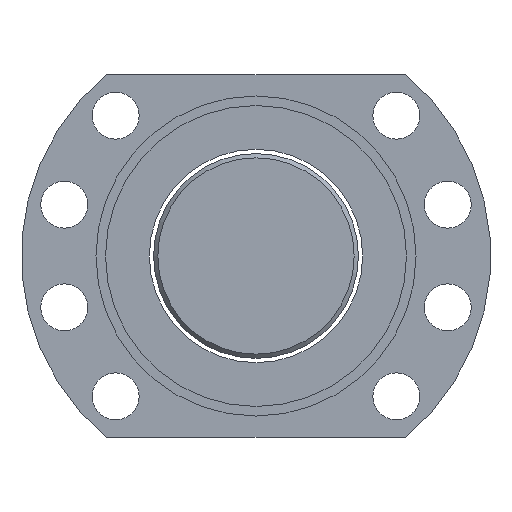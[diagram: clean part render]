
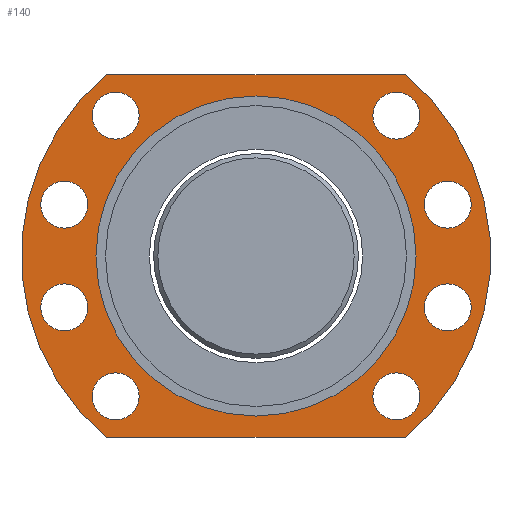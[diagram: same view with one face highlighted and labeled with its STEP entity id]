
A CAD part, left-side view. The second image highlights one B-rep face of the part: STEP entity #140.
In plain terms, the highlighted planar face has unit normal (-1, 0, 0).
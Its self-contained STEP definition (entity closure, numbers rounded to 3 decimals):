
#140=ADVANCED_FACE('',(#239,#240,#241,#242,#243,#244,#245,#246,#247,#248),
#192,.T.);
#192=PLANE('',#793);
#215=LINE('',#1151,#223);
#216=LINE('',#1155,#224);
#223=VECTOR('',#920,1.);
#224=VECTOR('',#923,1.);
#239=FACE_BOUND('',#347,.T.);
#240=FACE_BOUND('',#348,.T.);
#241=FACE_BOUND('',#349,.T.);
#242=FACE_BOUND('',#350,.T.);
#243=FACE_BOUND('',#351,.T.);
#244=FACE_BOUND('',#352,.T.);
#245=FACE_BOUND('',#353,.T.);
#246=FACE_BOUND('',#354,.T.);
#247=FACE_BOUND('',#355,.T.);
#248=FACE_BOUND('',#356,.T.);
#347=EDGE_LOOP('',(#464));
#348=EDGE_LOOP('',(#465));
#349=EDGE_LOOP('',(#466));
#350=EDGE_LOOP('',(#467));
#351=EDGE_LOOP('',(#468));
#352=EDGE_LOOP('',(#469,#470,#471,#472));
#353=EDGE_LOOP('',(#473));
#354=EDGE_LOOP('',(#474));
#355=EDGE_LOOP('',(#475));
#356=EDGE_LOOP('',(#476));
#464=ORIENTED_EDGE('',*,*,#658,.T.);
#465=ORIENTED_EDGE('',*,*,#659,.T.);
#466=ORIENTED_EDGE('',*,*,#660,.F.);
#467=ORIENTED_EDGE('',*,*,#661,.F.);
#468=ORIENTED_EDGE('',*,*,#662,.F.);
#469=ORIENTED_EDGE('',*,*,#663,.T.);
#470=ORIENTED_EDGE('',*,*,#664,.T.);
#471=ORIENTED_EDGE('',*,*,#665,.T.);
#472=ORIENTED_EDGE('',*,*,#666,.T.);
#473=ORIENTED_EDGE('',*,*,#667,.F.);
#474=ORIENTED_EDGE('',*,*,#668,.T.);
#475=ORIENTED_EDGE('',*,*,#669,.F.);
#476=ORIENTED_EDGE('',*,*,#670,.T.);
#596=VERTEX_POINT('',#1139);
#597=VERTEX_POINT('',#1141);
#598=VERTEX_POINT('',#1143);
#599=VERTEX_POINT('',#1145);
#600=VERTEX_POINT('',#1147);
#601=VERTEX_POINT('',#1149);
#602=VERTEX_POINT('',#1150);
#603=VERTEX_POINT('',#1152);
#604=VERTEX_POINT('',#1154);
#605=VERTEX_POINT('',#1157);
#606=VERTEX_POINT('',#1159);
#607=VERTEX_POINT('',#1161);
#608=VERTEX_POINT('',#1163);
#658=EDGE_CURVE('',#596,#596,#722,.T.);
#659=EDGE_CURVE('',#597,#597,#723,.T.);
#660=EDGE_CURVE('',#598,#598,#724,.T.);
#661=EDGE_CURVE('',#599,#599,#725,.T.);
#662=EDGE_CURVE('',#600,#600,#726,.T.);
#663=EDGE_CURVE('',#601,#602,#727,.T.);
#664=EDGE_CURVE('',#602,#603,#215,.T.);
#665=EDGE_CURVE('',#603,#604,#728,.T.);
#666=EDGE_CURVE('',#604,#601,#216,.T.);
#667=EDGE_CURVE('',#605,#605,#729,.T.);
#668=EDGE_CURVE('',#606,#606,#730,.T.);
#669=EDGE_CURVE('',#607,#607,#731,.T.);
#670=EDGE_CURVE('',#608,#608,#732,.T.);
#722=CIRCLE('',#782,5.5);
#723=CIRCLE('',#783,5.5);
#724=CIRCLE('',#784,5.5);
#725=CIRCLE('',#785,5.5);
#726=CIRCLE('',#786,5.5);
#727=CIRCLE('',#787,55.);
#728=CIRCLE('',#788,55.);
#729=CIRCLE('',#789,37.5);
#730=CIRCLE('',#790,5.5);
#731=CIRCLE('',#791,5.5);
#732=CIRCLE('',#792,5.5);
#782=AXIS2_PLACEMENT_3D('',#1138,#908,#909);
#783=AXIS2_PLACEMENT_3D('',#1140,#910,#911);
#784=AXIS2_PLACEMENT_3D('',#1142,#912,#913);
#785=AXIS2_PLACEMENT_3D('',#1144,#914,#915);
#786=AXIS2_PLACEMENT_3D('',#1146,#916,#917);
#787=AXIS2_PLACEMENT_3D('',#1148,#918,#919);
#788=AXIS2_PLACEMENT_3D('',#1153,#921,#922);
#789=AXIS2_PLACEMENT_3D('',#1156,#924,#925);
#790=AXIS2_PLACEMENT_3D('',#1158,#926,#927);
#791=AXIS2_PLACEMENT_3D('',#1160,#928,#929);
#792=AXIS2_PLACEMENT_3D('',#1162,#930,#931);
#793=AXIS2_PLACEMENT_3D('',#1164,#932,#933);
#908=DIRECTION('',(1.,0.,0.));
#909=DIRECTION('',(0.,0.,1.));
#910=DIRECTION('',(1.,0.,0.));
#911=DIRECTION('',(0.,0.,1.));
#912=DIRECTION('',(-1.,0.,0.));
#913=DIRECTION('',(0.,0.,1.));
#914=DIRECTION('',(-1.,0.,0.));
#915=DIRECTION('',(0.,0.,1.));
#916=DIRECTION('',(-1.,0.,0.));
#917=DIRECTION('',(0.,0.,1.));
#918=DIRECTION('',(-1.,0.,0.));
#919=DIRECTION('',(0.,0.,-1.));
#920=DIRECTION('',(0.,-1.,0.));
#921=DIRECTION('',(-1.,0.,0.));
#922=DIRECTION('',(0.,0.,-1.));
#923=DIRECTION('',(0.,1.,0.));
#924=DIRECTION('',(-1.,0.,0.));
#925=DIRECTION('',(0.,0.,-1.));
#926=DIRECTION('',(1.,0.,0.));
#927=DIRECTION('',(0.,0.,1.));
#928=DIRECTION('',(-1.,0.,0.));
#929=DIRECTION('',(0.,0.,1.));
#930=DIRECTION('',(1.,0.,0.));
#931=DIRECTION('',(0.,0.,1.));
#932=DIRECTION('',(-1.,0.,0.));
#933=DIRECTION('',(0.,0.,1.));
#1138=CARTESIAN_POINT('',(485.903,44.185,22.805));
#1139=CARTESIAN_POINT('',(485.903,44.185,28.305));
#1140=CARTESIAN_POINT('',(485.903,56.22,-22.111));
#1141=CARTESIAN_POINT('',(485.903,56.22,-16.611));
#1142=CARTESIAN_POINT('',(485.903,121.981,-22.111));
#1143=CARTESIAN_POINT('',(485.903,121.981,-16.611));
#1144=CARTESIAN_POINT('',(485.903,134.016,22.805));
#1145=CARTESIAN_POINT('',(485.903,134.016,28.305));
#1146=CARTESIAN_POINT('',(485.903,134.016,-1.265));
#1147=CARTESIAN_POINT('',(485.903,134.016,4.235));
#1148=CARTESIAN_POINT('',(485.903,89.1,10.77));
#1149=CARTESIAN_POINT('',(485.903,124.011,53.27));
#1150=CARTESIAN_POINT('',(485.903,124.011,-31.73));
#1151=CARTESIAN_POINT('',(485.903,124.011,-31.73));
#1152=CARTESIAN_POINT('',(485.903,54.19,-31.73));
#1153=CARTESIAN_POINT('',(485.903,89.1,10.77));
#1154=CARTESIAN_POINT('',(485.903,54.19,53.27));
#1155=CARTESIAN_POINT('',(485.903,54.19,53.27));
#1156=CARTESIAN_POINT('',(485.903,89.1,10.77));
#1157=CARTESIAN_POINT('',(485.903,89.1,-26.73));
#1158=CARTESIAN_POINT('',(485.903,44.185,-1.265));
#1159=CARTESIAN_POINT('',(485.903,44.185,4.235));
#1160=CARTESIAN_POINT('',(485.903,121.981,43.65));
#1161=CARTESIAN_POINT('',(485.903,121.981,49.15));
#1162=CARTESIAN_POINT('',(485.903,56.22,43.65));
#1163=CARTESIAN_POINT('',(485.903,56.22,49.15));
#1164=CARTESIAN_POINT('',(485.903,89.1,10.77));
